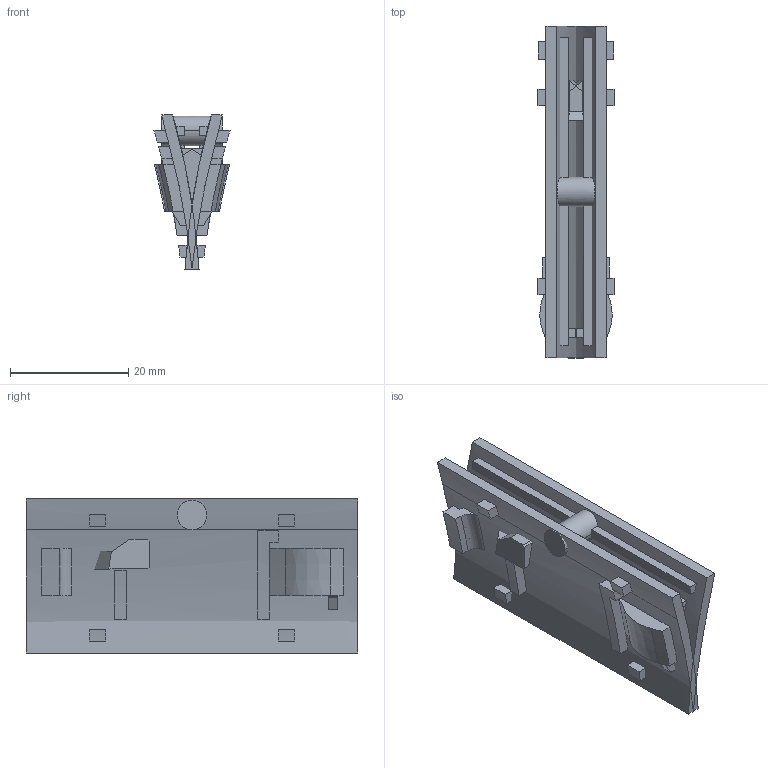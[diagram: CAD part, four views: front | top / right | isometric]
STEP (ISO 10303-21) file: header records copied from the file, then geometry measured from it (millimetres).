
FILE_DESCRIPTION (( 'STEP AP214' ), '1' );
FILE_NAME ('DWD-DP Sperrstift 5mm_links.step', '2012-05-08T08:42:20', ( 'Grass' ), ( '' ), 'SwSTEP 2.0', 'SolidWorks 2011', '' );
FILE_SCHEMA (( 'AUTOMOTIVE_DESIGN' ));
Length unit declared in the file: millimetre
Products named in the file (1): DWD-DP Sperrstift 5mm_links
Bounding box: 12.84 x 56 x 26 mm (x, y, z)
Volume: 6445.1 mm3; surface area: 8073.1 mm2
Topology: 2 solids, 2 shells, 176 faces, 452 edges, 300 vertices
Faces by surface type: plane 136, cylinder 28, bspline 10, torus 2
Entity records: 5770 total; most frequent: CARTESIAN_POINT 1420, ORIENTED_EDGE 904, DIRECTION 878, EDGE_CURVE 452, VERTEX_POINT 300, AXIS2_PLACEMENT_3D 295, LINE 288, VECTOR 288
